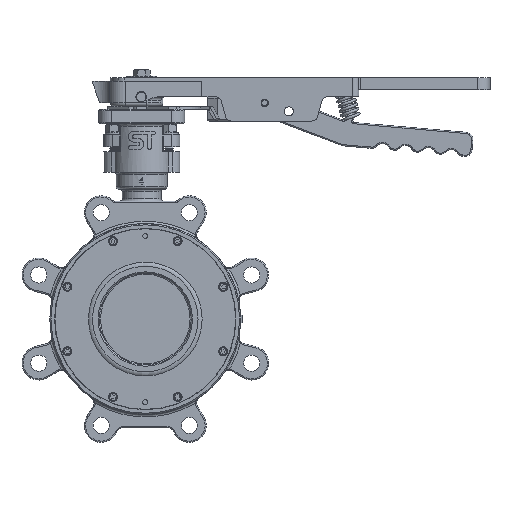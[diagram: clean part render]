
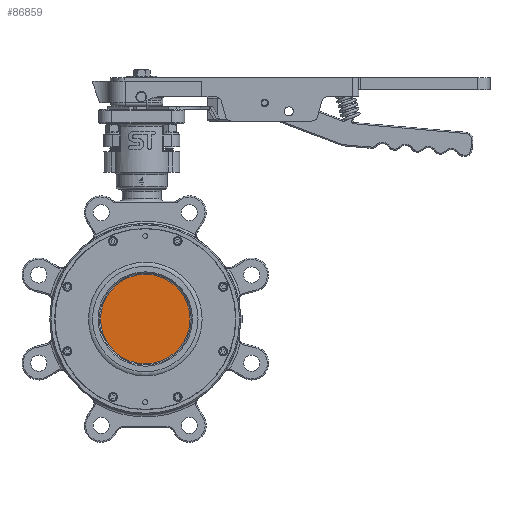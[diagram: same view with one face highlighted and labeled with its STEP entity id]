
A CAD part, front view. The second image highlights one B-rep face of the part: STEP entity #86859.
In plain terms, the highlighted planar face has unit normal (0, -1, 0).
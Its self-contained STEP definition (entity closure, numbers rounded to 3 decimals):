
#86859 = ADVANCED_FACE('',(#86860),#86873,.F.);
#86860 = FACE_BOUND('',#86861,.T.);
#86861 = EDGE_LOOP('',(#86862));
#86862 = ORIENTED_EDGE('',*,*,#86863,.F.);
#86863 = EDGE_CURVE('',#86864,#86864,#86866,.T.);
#86864 = VERTEX_POINT('',#86865);
#86865 = CARTESIAN_POINT('',(37.,-23.,0.));
#86866 = SURFACE_CURVE('',#86867,(#86872,#86884),.PCURVE_S1.);
#86867 = CIRCLE('',#86868,37.);
#86868 = AXIS2_PLACEMENT_3D('',#86869,#86870,#86871);
#86869 = CARTESIAN_POINT('',(0.,-23.,
    0.));
#86870 = DIRECTION('',(0.,1.,0.));
#86871 = DIRECTION('',(1.,0.,0.));
#86872 = PCURVE('',#86873,#86878);
#86873 = PLANE('',#86874);
#86874 = AXIS2_PLACEMENT_3D('',#86875,#86876,#86877);
#86875 = CARTESIAN_POINT('',(0.,-23.,
    0.));
#86876 = DIRECTION('',(0.,1.,0.));
#86877 = DIRECTION('',(1.,0.,0.));
#86878 = DEFINITIONAL_REPRESENTATION('',(#86879),#86883);
#86879 = CIRCLE('',#86880,37.);
#86880 = AXIS2_PLACEMENT_2D('',#86881,#86882);
#86881 = CARTESIAN_POINT('',(0.,0.));
#86882 = DIRECTION('',(1.,0.));
#86883 = ( GEOMETRIC_REPRESENTATION_CONTEXT(2) 
PARAMETRIC_REPRESENTATION_CONTEXT() REPRESENTATION_CONTEXT('2D SPACE',''
  ) );
#86884 = PCURVE('',#86885,#86890);
#86885 = TOROIDAL_SURFACE('',#86886,37.,1.);
#86886 = AXIS2_PLACEMENT_3D('',#86887,#86888,#86889);
#86887 = CARTESIAN_POINT('',(0.,-24.,
    0.));
#86888 = DIRECTION('',(0.,1.,0.));
#86889 = DIRECTION('',(1.,0.,0.));
#86890 = DEFINITIONAL_REPRESENTATION('',(#86891),#86895);
#86891 = LINE('',#86892,#86893);
#86892 = CARTESIAN_POINT('',(0.,7.854));
#86893 = VECTOR('',#86894,1.);
#86894 = DIRECTION('',(1.,0.));
#86895 = ( GEOMETRIC_REPRESENTATION_CONTEXT(2) 
PARAMETRIC_REPRESENTATION_CONTEXT() REPRESENTATION_CONTEXT('2D SPACE',''
  ) );
